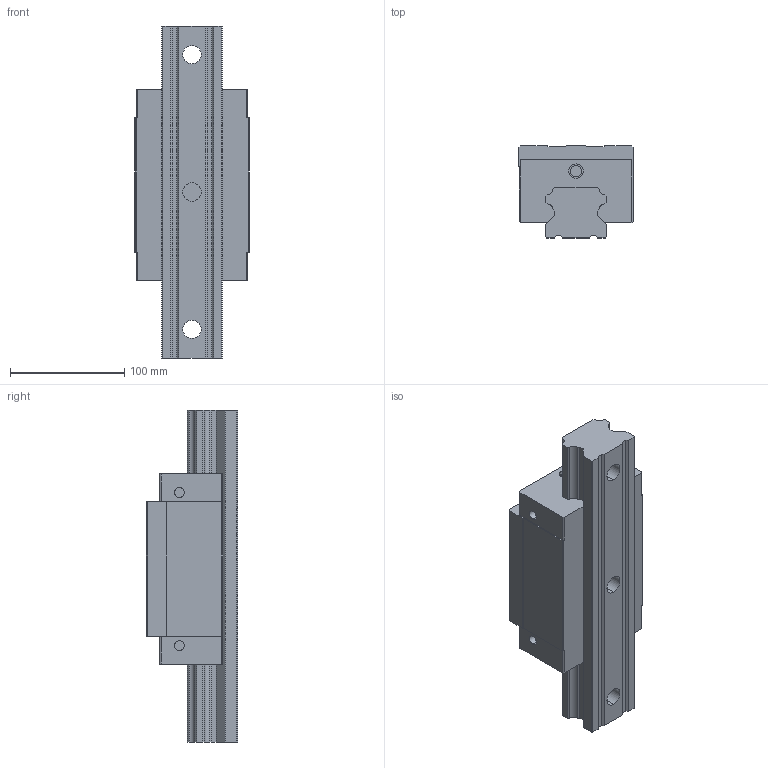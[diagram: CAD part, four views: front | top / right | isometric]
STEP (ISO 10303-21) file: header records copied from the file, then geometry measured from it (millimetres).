
FILE_DESCRIPTION((''),'2;1');
FILE_NAME('HGH55CA_ASM','2008-07-11T',('immo'),(''),'PRO/ENGINEER BY PARAMETRIC TECHNOLOGY CORPORATION, 2004360','PRO/ENGINEER BY PARAMETRIC TECHNOLOGY CORPORATION, 2004360','');
FILE_SCHEMA(('CONFIG_CONTROL_DESIGN'));
Length unit declared in the file: millimetre
Products named in the file (5): HG_RAIL0_R_ANY; HG_BLOCK_HGHCA_ANY; HG_BLOCK_SS_ANY_ASM_ASM; HGH55C_ANY_ASM_ASM; HGH55CA_ASM
Assembly tree (4 placements, depth 4):
  HGH55CA_ASM
    HGH55C_ANY_ASM_ASM
      HG_RAIL0_R_ANY
      HG_BLOCK_SS_ANY_ASM_ASM
        HG_BLOCK_HGHCA_ANY
Bounding box: 100 x 80 x 290 mm (x, y, z)
Volume: 1351507.3 mm3; surface area: 151937.1 mm2
Topology: 2 solids, 2 shells, 145 faces, 398 edges, 264 vertices
Faces by surface type: plane 89, cylinder 48, cone 8
Entity records: 4723 total; most frequent: CARTESIAN_POINT 811, DIRECTION 800, ORIENTED_EDGE 780, EDGE_CURVE 390, VECTOR 294, LINE 294, VERTEX_POINT 264, AXIS2_PLACEMENT_3D 253
